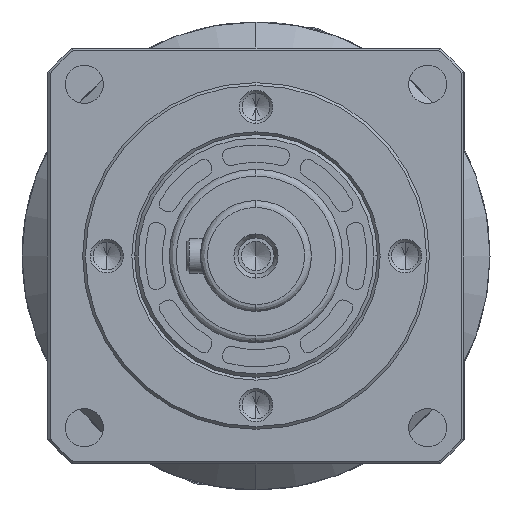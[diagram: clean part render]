
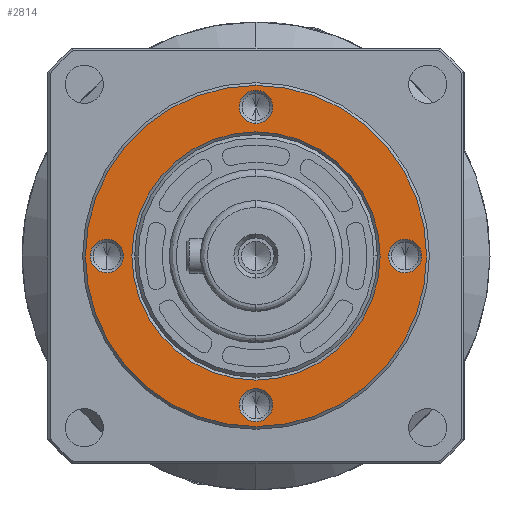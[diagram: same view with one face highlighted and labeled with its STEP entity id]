
A CAD part, left-side view. The second image highlights one B-rep face of the part: STEP entity #2814.
In plain terms, the highlighted planar face has unit normal (-1, 0, 0).
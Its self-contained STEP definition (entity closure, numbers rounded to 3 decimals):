
#16 = ORIENTED_EDGE ( 'NONE', *, *, #5325, .F. ) ;
#80 = DIRECTION ( 'NONE',  ( 0., 0., -1. ) ) ;
#99 = DIRECTION ( 'NONE',  ( -1., 0., 0. ) ) ;
#105 = ORIENTED_EDGE ( 'NONE', *, *, #6883, .F. ) ;
#114 = CARTESIAN_POINT ( 'NONE',  ( -7., 0., 0. ) ) ;
#352 = CARTESIAN_POINT ( 'NONE',  ( -7., 0., 21.5 ) ) ;
#1184 = AXIS2_PLACEMENT_3D ( 'NONE', #9507, #6025, #9595 ) ;
#1255 = EDGE_CURVE ( 'NONE', #13405, #21456, #7964, .T. ) ;
#1389 = VERTEX_POINT ( 'NONE', #7456 ) ;
#1405 = CARTESIAN_POINT ( 'NONE',  ( -7., 25., 0. ) ) ;
#1976 = VERTEX_POINT ( 'NONE', #11241 ) ;
#2006 = DIRECTION ( 'NONE',  ( -1., 0., 0. ) ) ;
#2621 = VERTEX_POINT ( 'NONE', #11521 ) ;
#2696 = VERTEX_POINT ( 'NONE', #15578 ) ;
#2814 = ADVANCED_FACE ( 'NONE', ( #7886, #13678, #11675, #6166, #20234, #9937 ), #17888, .F. ) ;
#2905 = AXIS2_PLACEMENT_3D ( 'NONE', #18308, #20075, #20150 ) ;
#2981 = AXIS2_PLACEMENT_3D ( 'NONE', #352, #18767, #16935 ) ;
#3196 = ORIENTED_EDGE ( 'NONE', *, *, #1255, .F. ) ;
#3435 = CARTESIAN_POINT ( 'NONE',  ( -7., -21.5, 0. ) ) ;
#5325 = EDGE_CURVE ( 'NONE', #1976, #19854, #20600, .T. ) ;
#5403 = CIRCLE ( 'NONE', #8082, 2.4 ) ;
#5573 = CARTESIAN_POINT ( 'NONE',  ( -7., 0., 0. ) ) ;
#5861 = EDGE_CURVE ( 'NONE', #22327, #2621, #19124, .T. ) ;
#6025 = DIRECTION ( 'NONE',  ( -1., 0., 0. ) ) ;
#6120 = DIRECTION ( 'NONE',  ( 0., 0., 1. ) ) ;
#6166 = FACE_BOUND ( 'NONE', #12177, .T. ) ;
#6477 = AXIS2_PLACEMENT_3D ( 'NONE', #7613, #16860, #7777 ) ;
#6760 = AXIS2_PLACEMENT_3D ( 'NONE', #15530, #20798, #6120 ) ;
#6883 = EDGE_CURVE ( 'NONE', #20293, #19149, #13713, .T. ) ;
#7204 = EDGE_CURVE ( 'NONE', #7368, #1389, #16835, .T. ) ;
#7250 = CARTESIAN_POINT ( 'NONE',  ( -7., 0., 23.9 ) ) ;
#7279 = DIRECTION ( 'NONE',  ( 0., -1., 0. ) ) ;
#7368 = VERTEX_POINT ( 'NONE', #15038 ) ;
#7456 = CARTESIAN_POINT ( 'NONE',  ( -7., -2.4, -21.5 ) ) ;
#7613 = CARTESIAN_POINT ( 'NONE',  ( -7., -21.5, 0. ) ) ;
#7741 = DIRECTION ( 'NONE',  ( 0., -1., 0. ) ) ;
#7777 = DIRECTION ( 'NONE',  ( 0., -1., 0. ) ) ;
#7886 = FACE_OUTER_BOUND ( 'NONE', #9667, .T. ) ;
#7964 = CIRCLE ( 'NONE', #19422, 2.4 ) ;
#8082 = AXIS2_PLACEMENT_3D ( 'NONE', #16422, #2006, #20323 ) ;
#8302 = EDGE_CURVE ( 'NONE', #21456, #13405, #8453, .T. ) ;
#8361 = CARTESIAN_POINT ( 'NONE',  ( -7., 0., 19.1 ) ) ;
#8453 = CIRCLE ( 'NONE', #6477, 2.4 ) ;
#8670 = ORIENTED_EDGE ( 'NONE', *, *, #17886, .F. ) ;
#8674 = DIRECTION ( 'NONE',  ( 0., 0., -1. ) ) ;
#8726 = AXIS2_PLACEMENT_3D ( 'NONE', #11093, #99, #7279 ) ;
#9408 = DIRECTION ( 'NONE',  ( 0., 0., 1. ) ) ;
#9507 = CARTESIAN_POINT ( 'NONE',  ( -7., 0., 0. ) ) ;
#9595 = DIRECTION ( 'NONE',  ( 0., 0., 1. ) ) ;
#9629 = ORIENTED_EDGE ( 'NONE', *, *, #8302, .F. ) ;
#9667 = EDGE_LOOP ( 'NONE', ( #21691, #16130 ) ) ;
#9695 = CIRCLE ( 'NONE', #2981, 2.4 ) ;
#9750 = DIRECTION ( 'NONE',  ( 0., 0., -1. ) ) ;
#9937 = FACE_BOUND ( 'NONE', #12455, .T. ) ;
#10366 = AXIS2_PLACEMENT_3D ( 'NONE', #20618, #17023, #9750 ) ;
#10776 = AXIS2_PLACEMENT_3D ( 'NONE', #114, #20366, #9408 ) ;
#10891 = EDGE_LOOP ( 'NONE', ( #3196, #9629 ) ) ;
#11086 = AXIS2_PLACEMENT_3D ( 'NONE', #11242, #18734, #7741 ) ;
#11091 = CARTESIAN_POINT ( 'NONE',  ( -7., 0., 17.9 ) ) ;
#11093 = CARTESIAN_POINT ( 'NONE',  ( -7., 21.5, 0. ) ) ;
#11241 = CARTESIAN_POINT ( 'NONE',  ( -7., 0., -17.9 ) ) ;
#11242 = CARTESIAN_POINT ( 'NONE',  ( -7., 21.5, 0. ) ) ;
#11521 = CARTESIAN_POINT ( 'NONE',  ( -7., 19.1, 0. ) ) ;
#11675 = FACE_BOUND ( 'NONE', #20741, .T. ) ;
#12015 = EDGE_CURVE ( 'NONE', #1389, #7368, #5403, .T. ) ;
#12177 = EDGE_LOOP ( 'NONE', ( #105, #13589 ) ) ;
#12406 = DIRECTION ( 'NONE',  ( 1., 0., 0. ) ) ;
#12455 = EDGE_LOOP ( 'NONE', ( #8670, #16 ) ) ;
#13405 = VERTEX_POINT ( 'NONE', #21021 ) ;
#13589 = ORIENTED_EDGE ( 'NONE', *, *, #23006, .F. ) ;
#13678 = FACE_BOUND ( 'NONE', #14859, .T. ) ;
#13713 = CIRCLE ( 'NONE', #6760, 2.4 ) ;
#13853 = ORIENTED_EDGE ( 'NONE', *, *, #5861, .F. ) ;
#14396 = DIRECTION ( 'NONE',  ( 0., -1., 0. ) ) ;
#14859 = EDGE_LOOP ( 'NONE', ( #22910, #13853 ) ) ;
#15038 = CARTESIAN_POINT ( 'NONE',  ( -7., 2.4, -21.5 ) ) ;
#15318 = EDGE_CURVE ( 'NONE', #2621, #22327, #17010, .T. ) ;
#15530 = CARTESIAN_POINT ( 'NONE',  ( -7., 0., 21.5 ) ) ;
#15578 = CARTESIAN_POINT ( 'NONE',  ( -7., 0., -24.6 ) ) ;
#15713 = ORIENTED_EDGE ( 'NONE', *, *, #7204, .F. ) ;
#15771 = AXIS2_PLACEMENT_3D ( 'NONE', #1405, #12406, #8674 ) ;
#16130 = ORIENTED_EDGE ( 'NONE', *, *, #21959, .F. ) ;
#16422 = CARTESIAN_POINT ( 'NONE',  ( -7., 0., -21.5 ) ) ;
#16470 = VERTEX_POINT ( 'NONE', #21260 ) ;
#16835 = CIRCLE ( 'NONE', #2905, 2.4 ) ;
#16860 = DIRECTION ( 'NONE',  ( -1., 0., 0. ) ) ;
#16902 = CIRCLE ( 'NONE', #1184, 17.9 ) ;
#16935 = DIRECTION ( 'NONE',  ( 0., 0., 1. ) ) ;
#17008 = CARTESIAN_POINT ( 'NONE',  ( -7., -19.1, 0. ) ) ;
#17010 = CIRCLE ( 'NONE', #8726, 2.4 ) ;
#17023 = DIRECTION ( 'NONE',  ( 1., 0., 0. ) ) ;
#17886 = EDGE_CURVE ( 'NONE', #19854, #1976, #16902, .T. ) ;
#17888 = PLANE ( 'NONE',  #15771 ) ;
#18290 = CIRCLE ( 'NONE', #19145, 24.6 ) ;
#18308 = CARTESIAN_POINT ( 'NONE',  ( -7., 0., -21.5 ) ) ;
#18734 = DIRECTION ( 'NONE',  ( -1., 0., 0. ) ) ;
#18767 = DIRECTION ( 'NONE',  ( -1., 0., 0. ) ) ;
#19124 = CIRCLE ( 'NONE', #11086, 2.4 ) ;
#19145 = AXIS2_PLACEMENT_3D ( 'NONE', #5573, #23824, #80 ) ;
#19149 = VERTEX_POINT ( 'NONE', #8361 ) ;
#19318 = EDGE_CURVE ( 'NONE', #2696, #16470, #23727, .T. ) ;
#19422 = AXIS2_PLACEMENT_3D ( 'NONE', #3435, #19739, #14396 ) ;
#19739 = DIRECTION ( 'NONE',  ( -1., 0., 0. ) ) ;
#19854 = VERTEX_POINT ( 'NONE', #11091 ) ;
#19922 = CARTESIAN_POINT ( 'NONE',  ( -7., 23.9, 0. ) ) ;
#20075 = DIRECTION ( 'NONE',  ( -1., 0., 0. ) ) ;
#20150 = DIRECTION ( 'NONE',  ( 0., -1., 0. ) ) ;
#20234 = FACE_BOUND ( 'NONE', #10891, .T. ) ;
#20293 = VERTEX_POINT ( 'NONE', #7250 ) ;
#20323 = DIRECTION ( 'NONE',  ( 0., -1., 0. ) ) ;
#20366 = DIRECTION ( 'NONE',  ( -1., 0., 0. ) ) ;
#20600 = CIRCLE ( 'NONE', #10776, 17.9 ) ;
#20618 = CARTESIAN_POINT ( 'NONE',  ( -7., 0., 0. ) ) ;
#20741 = EDGE_LOOP ( 'NONE', ( #22532, #15713 ) ) ;
#20798 = DIRECTION ( 'NONE',  ( -1., 0., 0. ) ) ;
#21021 = CARTESIAN_POINT ( 'NONE',  ( -7., -23.9, 0. ) ) ;
#21260 = CARTESIAN_POINT ( 'NONE',  ( -7., 0., 24.6 ) ) ;
#21456 = VERTEX_POINT ( 'NONE', #17008 ) ;
#21691 = ORIENTED_EDGE ( 'NONE', *, *, #19318, .F. ) ;
#21959 = EDGE_CURVE ( 'NONE', #16470, #2696, #18290, .T. ) ;
#22327 = VERTEX_POINT ( 'NONE', #19922 ) ;
#22532 = ORIENTED_EDGE ( 'NONE', *, *, #12015, .F. ) ;
#22910 = ORIENTED_EDGE ( 'NONE', *, *, #15318, .F. ) ;
#23006 = EDGE_CURVE ( 'NONE', #19149, #20293, #9695, .T. ) ;
#23727 = CIRCLE ( 'NONE', #10366, 24.6 ) ;
#23824 = DIRECTION ( 'NONE',  ( 1., 0., 0. ) ) ;
